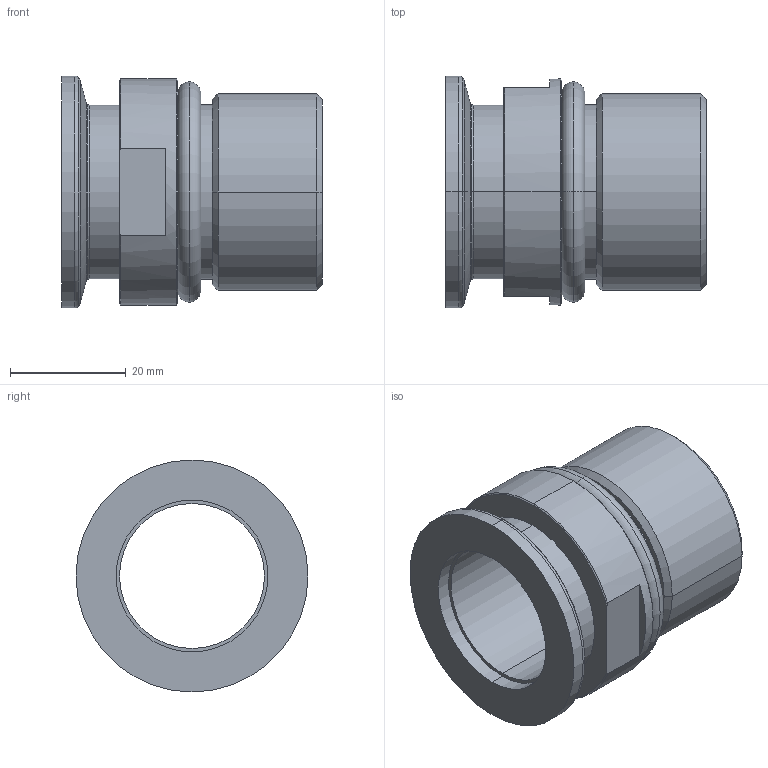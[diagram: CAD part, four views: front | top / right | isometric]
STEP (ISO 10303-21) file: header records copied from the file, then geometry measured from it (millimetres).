
FILE_DESCRIPTION((''),'2;1');
FILE_NAME('88632_ASM','2016-01-25T',('l0100062'),('Copyright by Leybold GmbH'),'PRO/ENGINEER BY PARAMETRIC TECHNOLOGY CORPORATION, 2015280','PRO/ENGINEER BY PARAMETRIC TECHNOLOGY CORPORATION, 2015280','');
FILE_SCHEMA(('AUTOMOTIVE_DESIGN { 1 0 10303 214 1 1 1 1 }'));
Length unit declared in the file: millimetre
Products named in the file (3): MANIFOLD_SOLID_BREP_40_88632_1; MANIFOLD_SOLID_BREP_41; 88632_ASM
Assembly tree (2 placements, depth 2):
  88632_ASM
    MANIFOLD_SOLID_BREP_40_88632_1
    MANIFOLD_SOLID_BREP_41
Bounding box: 45 x 40 x 40 mm (x, y, z)
Volume: 21275.5 mm3; surface area: 12319.8 mm2
Topology: 2 solids, 2 shells, 46 faces, 98 edges, 58 vertices
Faces by surface type: cylinder 14, torus 12, cone 10, plane 10
Entity records: 1776 total; most frequent: DIRECTION 260, CARTESIAN_POINT 228, ORIENTED_EDGE 196, AXIS2_PLACEMENT_3D 115, PRESENTATION_STYLE_ASSIGNMENT 100, STYLED_ITEM 100, CURVE_STYLE 98, EDGE_CURVE 98
